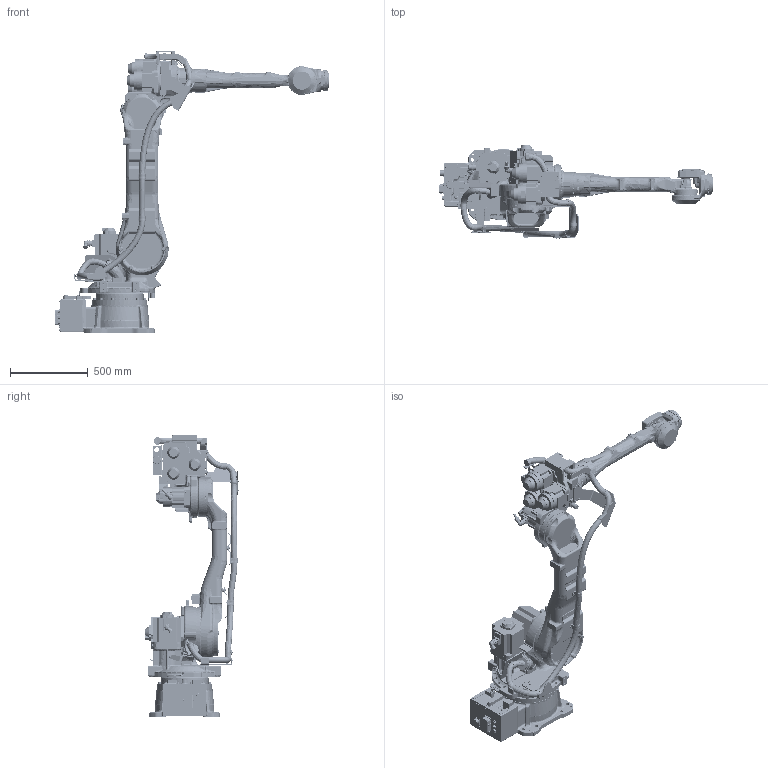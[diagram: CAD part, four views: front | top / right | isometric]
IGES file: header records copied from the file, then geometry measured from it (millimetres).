
Global section: file name: U:\Moto\gp50l\GP50L-fertig\GP50L.igs; native system: NX V12.0; preprocessor: SIEMENS PLM Software NX 12.0; date: 20190628.130323; units: millimetre
Bounding box: 1759.85 x 600.7 x 1811 mm (x, y, z)
Surface area: 6031711 mm2 (no closed solid volume)
Topology: 0 solids, 0 shells, 10259 faces, 69213 edges, 69107 vertices
Faces by surface type: bspline 10259
